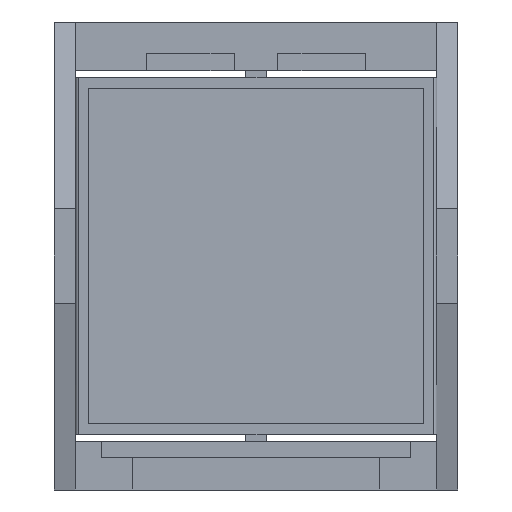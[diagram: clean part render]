
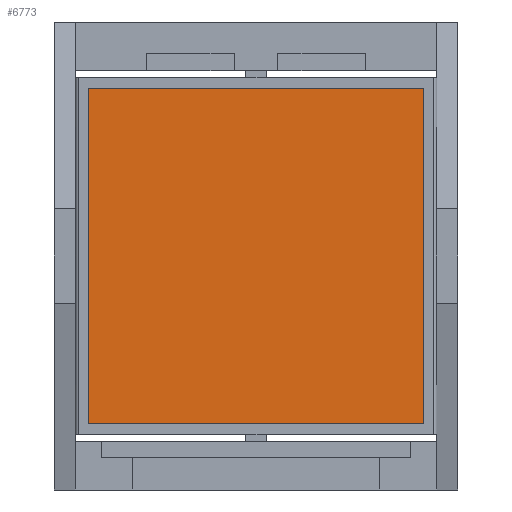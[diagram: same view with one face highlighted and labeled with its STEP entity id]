
A CAD part, front view. The second image highlights one B-rep face of the part: STEP entity #6773.
In plain terms, the highlighted planar face has unit normal (0, -1, 0).
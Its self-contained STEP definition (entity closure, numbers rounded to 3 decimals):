
#374 = CARTESIAN_POINT ( 'NONE',  ( -7.772, -3.744, -10.991 ) ) ;
#431 = CARTESIAN_POINT ( 'NONE',  ( -7.772, -3.744, 12.009 ) ) ;
#536 = EDGE_CURVE ( 'NONE', #4560, #2676, #5421, .T. ) ;
#614 = CARTESIAN_POINT ( 'NONE',  ( -7.772, -3.744, 12.009 ) ) ;
#705 = PLANE ( 'NONE',  #988 ) ;
#720 = VECTOR ( 'NONE', #3826, 1000. ) ;
#736 = VECTOR ( 'NONE', #802, 1000. ) ;
#765 = LINE ( 'NONE', #3649, #736 ) ;
#802 = DIRECTION ( 'NONE',  ( -1., 0., 0. ) ) ;
#988 = AXIS2_PLACEMENT_3D ( 'NONE', #431, #2719, #5618 ) ;
#1103 = EDGE_CURVE ( 'NONE', #4248, #6554, #765, .T. ) ;
#1385 = VECTOR ( 'NONE', #2058, 1000. ) ;
#1677 = EDGE_CURVE ( 'NONE', #2676, #4248, #6468, .T. ) ;
#2058 = DIRECTION ( 'NONE',  ( 0., 0., 1. ) ) ;
#2333 = CARTESIAN_POINT ( 'NONE',  ( 15.228, -3.744, 12.009 ) ) ;
#2676 = VERTEX_POINT ( 'NONE', #2333 ) ;
#2719 = DIRECTION ( 'NONE',  ( 0., 1., 0. ) ) ;
#3399 = ORIENTED_EDGE ( 'NONE', *, *, #536, .F. ) ;
#3550 = ORIENTED_EDGE ( 'NONE', *, *, #5090, .F. ) ;
#3649 = CARTESIAN_POINT ( 'NONE',  ( -7.772, -3.744, -10.991 ) ) ;
#3826 = DIRECTION ( 'NONE',  ( 0., 0., -1. ) ) ;
#4248 = VERTEX_POINT ( 'NONE', #6667 ) ;
#4560 = VERTEX_POINT ( 'NONE', #614 ) ;
#4807 = LINE ( 'NONE', #7068, #1385 ) ;
#4906 = ORIENTED_EDGE ( 'NONE', *, *, #1677, .F. ) ;
#5090 = EDGE_CURVE ( 'NONE', #6554, #4560, #4807, .T. ) ;
#5174 = CARTESIAN_POINT ( 'NONE',  ( -7.772, -3.744, 12.009 ) ) ;
#5421 = LINE ( 'NONE', #5174, #5928 ) ;
#5595 = EDGE_LOOP ( 'NONE', ( #3550, #7118, #4906, #3399 ) ) ;
#5618 = DIRECTION ( 'NONE',  ( 0., 0., 1. ) ) ;
#5922 = FACE_OUTER_BOUND ( 'NONE', #5595, .T. ) ;
#5928 = VECTOR ( 'NONE', #6913, 1000. ) ;
#6468 = LINE ( 'NONE', #7173, #720 ) ;
#6554 = VERTEX_POINT ( 'NONE', #374 ) ;
#6667 = CARTESIAN_POINT ( 'NONE',  ( 15.228, -3.744, -10.991 ) ) ;
#6773 = ADVANCED_FACE ( 'NONE', ( #5922 ), #705, .F. ) ;
#6913 = DIRECTION ( 'NONE',  ( 1., 0., 0. ) ) ;
#7068 = CARTESIAN_POINT ( 'NONE',  ( -7.772, -3.744, -10.991 ) ) ;
#7118 = ORIENTED_EDGE ( 'NONE', *, *, #1103, .F. ) ;
#7173 = CARTESIAN_POINT ( 'NONE',  ( 15.228, -3.744, -10.991 ) ) ;
